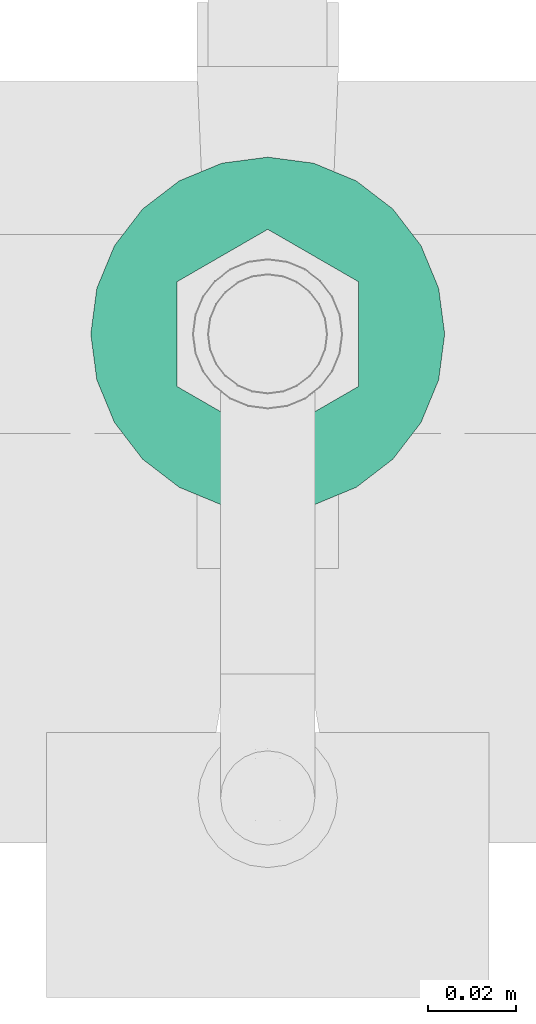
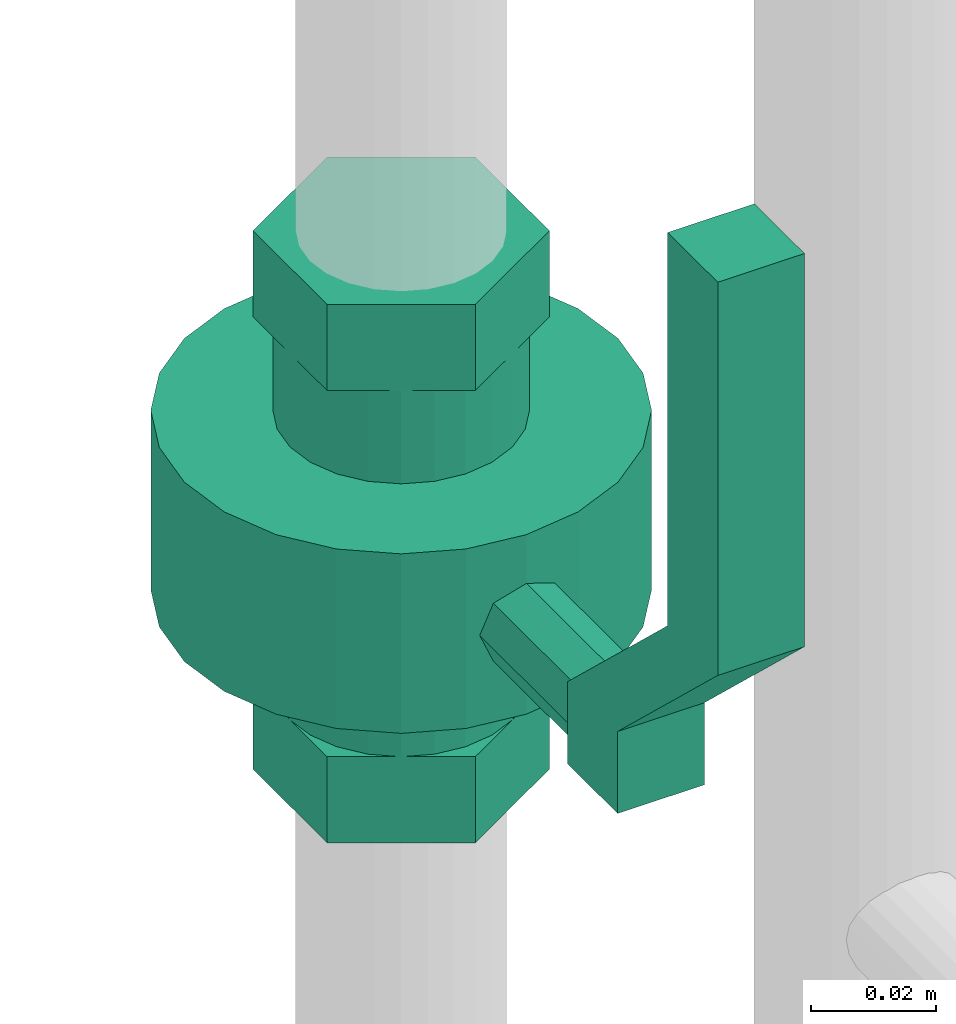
# One storey, part 86 of 374: 1 flow controller.
"""IFC2X3 building model written with IfcOpenShell, lengths in metres."""

from ifc_helpers import new_model, si_unit, direction, origin, place, context, subcontext, project, spatial, open_shell, surface_model, source, transform, mapped, element, save


model = new_model("IFC2X3")

# Units and contexts
model_context = context("Model", 3, precision=1e-05, world=origin(), true_north=direction((-0.4480736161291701, 0.8939966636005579)))
body_context = subcontext(model_context, "Body", "Model", "MODEL_VIEW")
ifc_project = project(units=[si_unit("LENGTHUNIT", "METRE"), si_unit("AREAUNIT", "SQUARE_METRE"), si_unit("VOLUMEUNIT", "CUBIC_METRE"), si_unit("PLANEANGLEUNIT", "RADIAN"), si_unit("THERMODYNAMICTEMPERATUREUNIT", "KELVIN"), si_unit("MASSUNIT", "GRAM", prefix="KILO"), si_unit("TIMEUNIT", "SECOND")], contexts=[model_context])

# Site, building, storey
site_placement = place(None, origin())
site = spatial("IfcSite", under=ifc_project, at=site_placement, Name="Site 1", CompositionType="ELEMENT")
building_placement = place(site_placement, origin())
building = spatial("IfcBuilding", under=site, at=building_placement, Name="Undefined", CompositionType="ELEMENT")
storey_placement = place(building_placement, origin())
storey = spatial("IfcBuildingStorey", under=building, at=storey_placement, Name="Rez de chauss\x8ee", CompositionType="ELEMENT", Elevation=0.0)

# Flow controller
shared_shape = source(origin(), body_context, "Body", "SurfaceModel", [
    surface_model("IfcFaceBasedSurfaceModel", [(0.0, 0.0, 0.0), (0.016000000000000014, 0.0, 0.0), (0.016000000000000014, 0.015999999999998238, 0.0), (0.0, 0.015999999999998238, 0.0), (0.016000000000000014, 0.0, 0.016000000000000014), (0.016000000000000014, 0.015999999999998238, 0.016000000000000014), (0.0, 0.0, 0.016000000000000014), (0.0, 0.015999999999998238, 0.016000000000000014), (-0.030333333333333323, 0.0, 0.04800000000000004), (-0.030333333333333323, 0.015999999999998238, 0.04800000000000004), (-0.1070000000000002, 0.0, 0.04800000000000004), (-0.1070000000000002, 0.015999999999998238, 0.04800000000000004), (-0.1070000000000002, 0.0, 0.03200000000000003), (-0.1070000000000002, 0.015999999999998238, 0.03200000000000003), (-0.030333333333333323, 0.0, 0.03200000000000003), (-0.030333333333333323, 0.015999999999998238, 0.03200000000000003), (0.060500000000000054, 0.02850000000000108, -0.0788356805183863), (0.060500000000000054, 0.02850000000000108, -0.05516431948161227), (0.04370000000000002, 0.02850000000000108, -0.05516431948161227), (0.04370000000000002, 0.02850000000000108, -0.0788356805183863), (0.060500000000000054, 0.008000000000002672, -0.0906713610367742), (0.04370000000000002, 0.008000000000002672, -0.0906713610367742), (0.060500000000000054, -0.012500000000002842, -0.0788356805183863), (0.04370000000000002, -0.012500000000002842, -0.0788356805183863), (0.060500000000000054, -0.012500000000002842, -0.05516431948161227), (0.04370000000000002, -0.012500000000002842, -0.05516431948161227), (0.060500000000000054, 0.008000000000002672, -0.043328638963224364), (0.04370000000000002, 0.008000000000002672, -0.043328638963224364), (0.04370000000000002, -0.012500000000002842, -0.06700000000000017), (0.04370000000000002, -0.011801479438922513, -0.06169420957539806), (0.025500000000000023, -0.011801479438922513, -0.06169420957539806), (0.025500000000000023, -0.012500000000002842, -0.06700000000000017), (0.04370000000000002, -0.009753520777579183, -0.05674999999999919), (0.025500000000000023, -0.009753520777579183, -0.05674999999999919), (0.04370000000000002, -0.006495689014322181, -0.05250431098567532), (0.025500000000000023, -0.006495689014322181, -0.05250431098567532), (0.04370000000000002, -0.002250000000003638, -0.049246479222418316), (0.025500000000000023, -0.002250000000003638, -0.049246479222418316), (0.04370000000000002, 0.0026942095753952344, -0.04719852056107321), (0.025500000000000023, 0.0026942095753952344, -0.04719852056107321), (0.04370000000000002, 0.008000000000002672, -0.046499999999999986), (0.025500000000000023, 0.008000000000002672, -0.046499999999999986), (0.04370000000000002, 0.013305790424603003, -0.04719852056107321), (0.025500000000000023, 0.013305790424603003, -0.04719852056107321), (0.04370000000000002, 0.018250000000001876, -0.049246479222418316), (0.025500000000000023, 0.018250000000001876, -0.049246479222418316), (0.04370000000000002, 0.02249568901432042, -0.05250431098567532), (0.025500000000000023, 0.02249568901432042, -0.05250431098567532), (0.04370000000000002, 0.02575352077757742, -0.05674999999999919), (0.025500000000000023, 0.02575352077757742, -0.05674999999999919), (0.04370000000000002, 0.02780147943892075, -0.06169420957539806), (0.025500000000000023, 0.02780147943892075, -0.06169420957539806), (0.04370000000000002, 0.02850000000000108, -0.06700000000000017), (0.025500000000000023, 0.02850000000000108, -0.06700000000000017), (0.04370000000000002, 0.02780147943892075, -0.0723057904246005), (0.025500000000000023, 0.02780147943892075, -0.0723057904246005), (0.04370000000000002, 0.02575352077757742, -0.07724999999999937), (0.025500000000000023, 0.02575352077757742, -0.07724999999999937), (0.04370000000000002, 0.02249568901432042, -0.08149568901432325), (0.025500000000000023, 0.02249568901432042, -0.08149568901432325), (0.04370000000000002, 0.018250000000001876, -0.08475352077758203), (0.025500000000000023, 0.018250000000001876, -0.08475352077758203), (0.04370000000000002, 0.013305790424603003, -0.08680147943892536), (0.025500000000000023, 0.013305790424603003, -0.08680147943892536), (0.04370000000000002, 0.008000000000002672, -0.08749999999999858), (0.025500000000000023, 0.008000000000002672, -0.08749999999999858), (0.04370000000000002, 0.0026942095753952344, -0.08680147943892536), (0.025500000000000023, 0.0026942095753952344, -0.08680147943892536), (0.04370000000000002, -0.002250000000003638, -0.08475352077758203), (0.025500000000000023, -0.002250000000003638, -0.08475352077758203), (0.04370000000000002, -0.006495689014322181, -0.08149568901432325), (0.025500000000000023, -0.006495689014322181, -0.08149568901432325), (0.04370000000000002, -0.009753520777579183, -0.07724999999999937), (0.025500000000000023, -0.009753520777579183, -0.07724999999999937), (0.04370000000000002, -0.011801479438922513, -0.0723057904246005), (0.025500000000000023, -0.011801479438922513, -0.0723057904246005), (0.025500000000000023, -0.03200000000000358, -0.06700000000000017), (0.025500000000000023, -0.030637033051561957, -0.05664723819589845), (-0.009499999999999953, -0.030637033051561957, -0.05664723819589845), (-0.009499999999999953, -0.03200000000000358, -0.06700000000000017), (0.025500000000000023, -0.02664101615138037, -0.04699999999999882), (-0.009499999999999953, -0.02664101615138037, -0.04699999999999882), (0.025500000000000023, -0.020284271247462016, -0.03871572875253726), (-0.009499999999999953, -0.020284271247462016, -0.03871572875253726), (0.025500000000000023, -0.012000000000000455, -0.03235898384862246), (-0.009499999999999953, -0.012000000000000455, -0.03235898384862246), (0.025500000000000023, -0.002352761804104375, -0.028362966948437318), (-0.009499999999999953, -0.002352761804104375, -0.028362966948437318), (0.025500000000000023, 0.008000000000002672, -0.026999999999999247), (-0.009499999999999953, 0.008000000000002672, -0.026999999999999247), (0.025500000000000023, 0.018352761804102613, -0.028362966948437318), (-0.009499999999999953, 0.018352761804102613, -0.028362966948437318), (0.025500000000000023, 0.027999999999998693, -0.03235898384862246), (-0.009499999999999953, 0.027999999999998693, -0.03235898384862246), (0.025500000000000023, 0.036284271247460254, -0.03871572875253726), (-0.009499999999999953, 0.036284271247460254, -0.03871572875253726), (0.025500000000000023, 0.04264101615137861, -0.04699999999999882), (-0.009499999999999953, 0.04264101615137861, -0.04699999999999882), (0.025500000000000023, 0.046637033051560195, -0.05664723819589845), (-0.009499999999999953, 0.046637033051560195, -0.05664723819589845), (0.025500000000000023, 0.04800000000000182, -0.06700000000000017), (-0.009499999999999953, 0.04800000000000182, -0.06700000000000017), (0.025500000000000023, 0.046637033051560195, -0.07735276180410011), (-0.009499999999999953, 0.046637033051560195, -0.07735276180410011), (0.025500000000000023, 0.04264101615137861, -0.08699999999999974), (-0.009499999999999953, 0.04264101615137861, -0.08699999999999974), (0.025500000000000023, 0.036284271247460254, -0.0952842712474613), (-0.009499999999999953, 0.036284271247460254, -0.0952842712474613), (0.025500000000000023, 0.027999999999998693, -0.10164101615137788), (-0.009499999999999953, 0.027999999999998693, -0.10164101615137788), (0.025500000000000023, 0.018352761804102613, -0.10563703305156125), (-0.009499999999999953, 0.018352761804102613, -0.10563703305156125), (0.025500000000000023, 0.008000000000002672, -0.10699999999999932), (-0.009499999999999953, 0.008000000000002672, -0.10699999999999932), (0.025500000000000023, -0.002352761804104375, -0.10563703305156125), (-0.009499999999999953, -0.002352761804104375, -0.10563703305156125), (0.025500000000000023, -0.012000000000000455, -0.10164101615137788), (-0.009499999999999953, -0.012000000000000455, -0.10164101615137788), (0.025500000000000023, -0.020284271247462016, -0.0952842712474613), (-0.009499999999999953, -0.020284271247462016, -0.0952842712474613), (0.025500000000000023, -0.02664101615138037, -0.08699999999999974), (-0.009499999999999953, -0.02664101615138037, -0.08699999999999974), (0.025500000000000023, -0.030637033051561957, -0.07735276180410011), (-0.009499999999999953, -0.030637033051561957, -0.07735276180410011), (0.025500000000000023, 0.008000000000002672, -0.06700000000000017), (-0.009499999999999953, 0.008000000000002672, -0.06700000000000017), (-0.009499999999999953, -0.012500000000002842, -0.06700000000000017), (-0.009499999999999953, -0.011801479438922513, -0.06169420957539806), (-0.027699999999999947, -0.011801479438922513, -0.06169420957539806), (-0.027699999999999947, -0.012500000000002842, -0.06700000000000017), (-0.009499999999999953, -0.009753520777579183, -0.05674999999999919), (-0.027699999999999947, -0.009753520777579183, -0.05674999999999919), (-0.009499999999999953, -0.006495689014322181, -0.05250431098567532), (-0.027699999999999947, -0.006495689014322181, -0.05250431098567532), (-0.009499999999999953, -0.002250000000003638, -0.049246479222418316), (-0.027699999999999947, -0.002250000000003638, -0.049246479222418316), (-0.009499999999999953, 0.0026942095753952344, -0.04719852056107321), (-0.027699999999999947, 0.0026942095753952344, -0.04719852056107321), (-0.009499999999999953, 0.008000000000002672, -0.046499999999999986), (-0.027699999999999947, 0.008000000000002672, -0.046499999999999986), (-0.009499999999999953, 0.013305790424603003, -0.04719852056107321), (-0.027699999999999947, 0.013305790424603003, -0.04719852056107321), (-0.009499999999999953, 0.018250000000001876, -0.049246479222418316), (-0.027699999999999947, 0.018250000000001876, -0.049246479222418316), (-0.009499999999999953, 0.02249568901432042, -0.05250431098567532), (-0.027699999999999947, 0.02249568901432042, -0.05250431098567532), (-0.009499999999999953, 0.02575352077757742, -0.05674999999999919), (-0.027699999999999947, 0.02575352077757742, -0.05674999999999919), (-0.009499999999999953, 0.02780147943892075, -0.06169420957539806), (-0.027699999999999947, 0.02780147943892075, -0.06169420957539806), (-0.009499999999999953, 0.02850000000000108, -0.06700000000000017), (-0.027699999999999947, 0.02850000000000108, -0.06700000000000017), (-0.009499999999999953, 0.02780147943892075, -0.0723057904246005), (-0.027699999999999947, 0.02780147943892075, -0.0723057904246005), (-0.009499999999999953, 0.02575352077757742, -0.07724999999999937), (-0.027699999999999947, 0.02575352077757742, -0.07724999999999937), (-0.009499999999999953, 0.02249568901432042, -0.08149568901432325), (-0.027699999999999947, 0.02249568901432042, -0.08149568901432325), (-0.009499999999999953, 0.018250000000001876, -0.08475352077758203), (-0.027699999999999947, 0.018250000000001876, -0.08475352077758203), (-0.009499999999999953, 0.013305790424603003, -0.08680147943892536), (-0.027699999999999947, 0.013305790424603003, -0.08680147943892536), (-0.009499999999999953, 0.008000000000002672, -0.08749999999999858), (-0.027699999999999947, 0.008000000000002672, -0.08749999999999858), (-0.009499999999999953, 0.0026942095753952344, -0.08680147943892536), (-0.027699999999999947, 0.0026942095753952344, -0.08680147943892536), (-0.009499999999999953, -0.002250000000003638, -0.08475352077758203), (-0.027699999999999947, -0.002250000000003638, -0.08475352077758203), (-0.009499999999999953, -0.006495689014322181, -0.08149568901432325), (-0.027699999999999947, -0.006495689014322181, -0.08149568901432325), (-0.009499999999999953, -0.009753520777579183, -0.07724999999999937), (-0.027699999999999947, -0.009753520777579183, -0.07724999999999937), (-0.009499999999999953, -0.011801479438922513, -0.0723057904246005), (-0.027699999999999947, -0.011801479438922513, -0.0723057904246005), (-0.027699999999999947, 0.02850000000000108, -0.0788356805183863), (-0.027699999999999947, 0.02850000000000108, -0.05516431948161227), (-0.04449999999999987, 0.02850000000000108, -0.05516431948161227), (-0.04449999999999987, 0.02850000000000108, -0.0788356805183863), (-0.027699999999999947, 0.008000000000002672, -0.0906713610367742), (-0.04449999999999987, 0.008000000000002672, -0.0906713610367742), (-0.027699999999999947, -0.012500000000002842, -0.0788356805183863), (-0.04449999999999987, -0.012500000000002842, -0.0788356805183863), (-0.027699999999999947, -0.012500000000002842, -0.05516431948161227), (-0.04449999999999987, -0.012500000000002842, -0.05516431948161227), (-0.027699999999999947, 0.008000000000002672, -0.043328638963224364), (-0.04449999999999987, 0.008000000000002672, -0.043328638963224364), (0.0, 0.008000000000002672, -0.06700000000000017), (0.002343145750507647, 0.002343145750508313, -0.06700000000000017), (0.002343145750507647, 0.002343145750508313, 0.0), (0.0, 0.008, 0.0), (0.008000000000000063, 0.0, -0.06700000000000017), (0.008000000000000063, 0.0, 0.0), (0.013656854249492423, 0.002343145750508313, -0.06700000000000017), (0.013656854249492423, 0.002343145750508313, 0.0), (0.016000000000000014, 0.008000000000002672, -0.06700000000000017), (0.016000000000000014, 0.008000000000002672, 0.0), (0.013656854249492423, 0.013656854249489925, -0.06700000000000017), (0.013656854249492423, 0.013656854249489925, 0.0), (0.008000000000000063, 0.015999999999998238, -0.06700000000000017), (0.008000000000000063, 0.015999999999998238, 0.0), (0.002343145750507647, 0.013656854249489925, -0.06700000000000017), (0.002343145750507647, 0.013656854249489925, 0.0)], [open_shell([[[0, 1, 2, 3]], [[1, 4, 5, 2]], [[4, 6, 7, 5]], [[6, 8, 9, 7]], [[8, 10, 11, 9]], [[10, 12, 13, 11]], [[12, 14, 15, 13]], [[14, 0, 3, 15]], [[3, 7, 2]], [[7, 3, 9]], [[15, 9, 3]], [[9, 15, 11]], [[13, 11, 15]], [[5, 2, 7]], [[1, 6, 0]], [[8, 0, 6]], [[0, 8, 14]], [[10, 14, 8]], [[14, 10, 12]], [[6, 1, 4]], [[16, 17, 18, 19]], [[20, 16, 19, 21]], [[22, 20, 21, 23]], [[24, 22, 23, 25]], [[26, 24, 25, 27]], [[17, 26, 27, 18]], [[17, 16, 20]], [[17, 20, 22]], [[17, 22, 24]], [[17, 24, 26]], [[18, 21, 19]], [[18, 23, 21]], [[18, 25, 23]], [[18, 27, 25]], [[28, 29, 30, 31]], [[29, 32, 33, 30]], [[32, 34, 35, 33]], [[34, 36, 37, 35]], [[36, 38, 39, 37]], [[38, 40, 41, 39]], [[40, 42, 43, 41]], [[42, 44, 45, 43]], [[44, 46, 47, 45]], [[46, 48, 49, 47]], [[48, 50, 51, 49]], [[50, 52, 53, 51]], [[52, 54, 55, 53]], [[54, 56, 57, 55]], [[56, 58, 59, 57]], [[58, 60, 61, 59]], [[60, 62, 63, 61]], [[62, 64, 65, 63]], [[64, 66, 67, 65]], [[66, 68, 69, 67]], [[68, 70, 71, 69]], [[70, 72, 73, 71]], [[72, 74, 75, 73]], [[74, 28, 31, 75]], [[76, 77, 78, 79]], [[77, 80, 81, 78]], [[80, 82, 83, 81]], [[82, 84, 85, 83]], [[84, 86, 87, 85]], [[86, 88, 89, 87]], [[88, 90, 91, 89]], [[90, 92, 93, 91]], [[92, 94, 95, 93]], [[94, 96, 97, 95]], [[96, 98, 99, 97]], [[98, 100, 101, 99]], [[100, 102, 103, 101]], [[102, 104, 105, 103]], [[104, 106, 107, 105]], [[106, 108, 109, 107]], [[108, 110, 111, 109]], [[110, 112, 113, 111]], [[112, 114, 115, 113]], [[114, 116, 117, 115]], [[116, 118, 119, 117]], [[118, 120, 121, 119]], [[120, 122, 123, 121]], [[122, 76, 79, 123]], [[124, 77, 76]], [[124, 80, 77]], [[124, 82, 80]], [[124, 84, 82]], [[124, 86, 84]], [[124, 88, 86]], [[124, 90, 88]], [[124, 92, 90]], [[124, 94, 92]], [[124, 96, 94]], [[124, 98, 96]], [[124, 100, 98]], [[124, 102, 100]], [[124, 104, 102]], [[124, 106, 104]], [[124, 108, 106]], [[124, 110, 108]], [[124, 112, 110]], [[124, 114, 112]], [[124, 116, 114]], [[124, 118, 116]], [[124, 120, 118]], [[124, 122, 120]], [[124, 76, 122]], [[125, 123, 79]], [[125, 121, 123]], [[125, 119, 121]], [[125, 117, 119]], [[125, 115, 117]], [[125, 113, 115]], [[125, 111, 113]], [[125, 109, 111]], [[125, 107, 109]], [[125, 105, 107]], [[125, 103, 105]], [[125, 101, 103]], [[125, 99, 101]], [[125, 97, 99]], [[125, 95, 97]], [[125, 93, 95]], [[125, 91, 93]], [[125, 89, 91]], [[125, 87, 89]], [[125, 85, 87]], [[125, 83, 85]], [[125, 81, 83]], [[125, 78, 81]], [[125, 79, 78]], [[126, 127, 128, 129]], [[127, 130, 131, 128]], [[130, 132, 133, 131]], [[132, 134, 135, 133]], [[134, 136, 137, 135]], [[136, 138, 139, 137]], [[138, 140, 141, 139]], [[140, 142, 143, 141]], [[142, 144, 145, 143]], [[144, 146, 147, 145]], [[146, 148, 149, 147]], [[148, 150, 151, 149]], [[150, 152, 153, 151]], [[152, 154, 155, 153]], [[154, 156, 157, 155]], [[156, 158, 159, 157]], [[158, 160, 161, 159]], [[160, 162, 163, 161]], [[162, 164, 165, 163]], [[164, 166, 167, 165]], [[166, 168, 169, 167]], [[168, 170, 171, 169]], [[170, 172, 173, 171]], [[172, 126, 129, 173]], [[174, 175, 176, 177]], [[178, 174, 177, 179]], [[180, 178, 179, 181]], [[182, 180, 181, 183]], [[184, 182, 183, 185]], [[175, 184, 185, 176]], [[175, 174, 178]], [[175, 178, 180]], [[175, 180, 182]], [[175, 182, 184]], [[176, 179, 177]], [[176, 181, 179]], [[176, 183, 181]], [[176, 185, 183]], [[186, 187, 188, 189]], [[187, 190, 191, 188]], [[190, 192, 193, 191]], [[192, 194, 195, 193]], [[194, 196, 197, 195]], [[196, 198, 199, 197]], [[198, 200, 201, 199]], [[200, 186, 189, 201]]])]),
])
flow_controller_placement = place(storey_placement, origin())
element("IfcFlowController", 1, at=flow_controller_placement, inside=storey, Name="Robinet à boisseau sphérique", ObjectType="Robinet à boisseau sphérique", context=body_context, shape_type="MappedRepresentation", body=[
    mapped(shared_shape, transform((52.04956201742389, 10.651037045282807, 1.737989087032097), x_axis=(0.0, 0.0, -1.0), y_axis=(1.0, 0.0, 0.0), z_axis=(0.0, -1.0, 0.0))),
])

save(model, "model.ifc")
